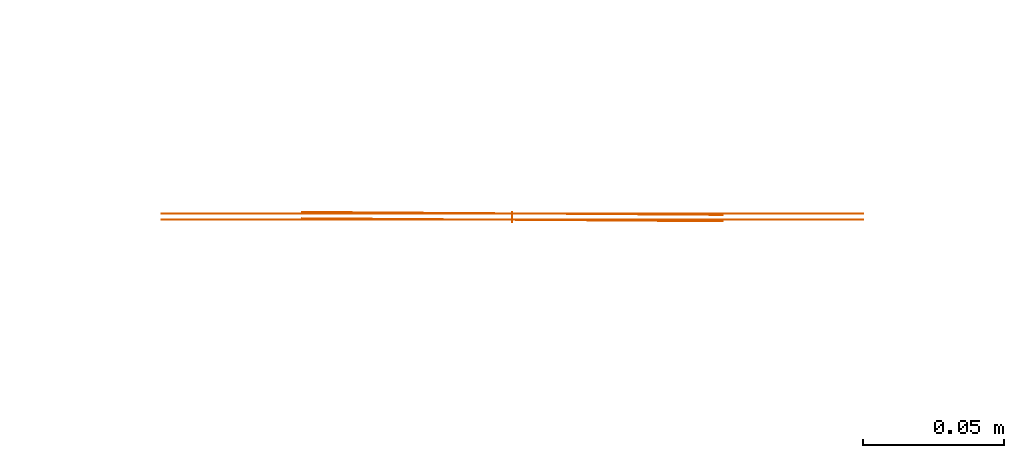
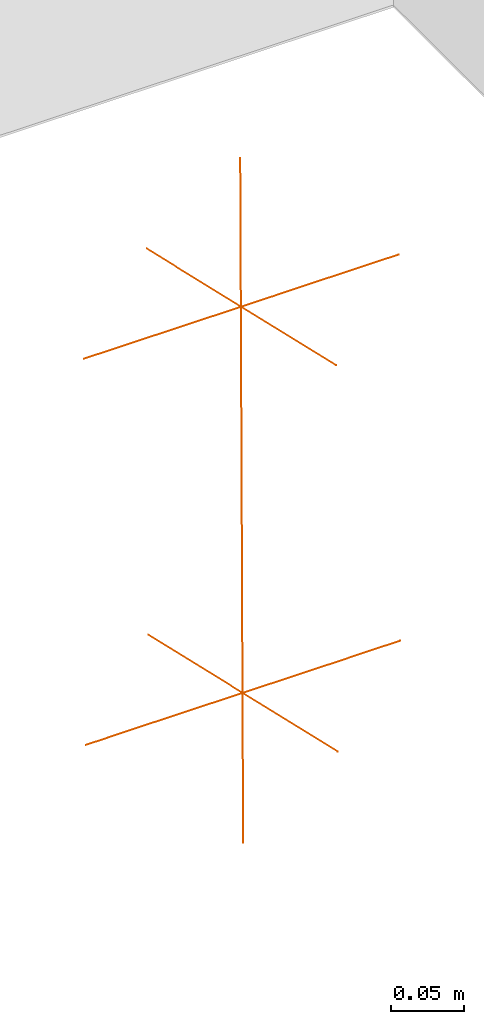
# One storey, part 2 of 3: 1 proxy, 1 element without a shape of its own.
"""IFC4 building model written with IfcOpenShell, lengths in metres."""

from ifc_helpers import new_model, entity, si_unit, converted_unit, derived_unit, frame, origin, origin_with_axes, place, context, subcontext, project, spatial, source, transform, mapped, element, aggregate, save


model = new_model("IFC4")

# Units and contexts
model_context = context("Model", 3, precision=1e-05, world=origin())
body_context = subcontext(model_context, "Body", "Model", "MODEL_VIEW")
ifc_project = project(units=[si_unit("LENGTHUNIT", "METRE"), si_unit("AREAUNIT", "SQUARE_METRE"), si_unit("VOLUMEUNIT", "CUBIC_METRE"), si_unit("MASSUNIT", "GRAM", prefix="KILO"), converted_unit("PLANEANGLEUNIT", "DEGREE", entity("IfcPlaneAngleMeasure", 0.0174532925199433), si_unit("PLANEANGLEUNIT", "RADIAN"), dimensions=[0, 0, 0, 0, 0, 0, 0]), derived_unit("THERMALTRANSMITTANCEUNIT", [(si_unit("POWERUNIT", "WATT"), 1), (si_unit("THERMODYNAMICTEMPERATUREUNIT", "KELVIN"), -1), (si_unit("LENGTHUNIT", "METRE"), -2)]), derived_unit("VOLUMETRICFLOWRATEUNIT", [(si_unit("LENGTHUNIT", "METRE"), 3), (converted_unit("TIMEUNIT", "hour", entity("IfcTimeMeasure", 3600.0), si_unit("TIMEUNIT", "SECOND"), dimensions=[0, 0, 1, 0, 0, 0, 0]), -1), (si_unit("LENGTHUNIT", "METRE"), -1)])], contexts=[model_context])

# Site, building, storey
site_placement = place(None, origin())
site = spatial("IfcSite", under=ifc_project, at=site_placement, Name="Liegenschaft", CompositionType="ELEMENT")
building_placement = place(site_placement, origin())
building = spatial("IfcBuilding", under=site, at=building_placement, Name="Gebäude", CompositionType="ELEMENT")
storey_placement = place(building_placement, origin())
storey = spatial("IfcBuildingStorey", under=building, at=storey_placement, Name="Geschoss 02", CompositionType="ELEMENT", Elevation=0.0)

# Assembly, proxy
assembly_placement = place(storey_placement, origin())
assembly = element("IfcElementAssembly", 1, at=assembly_placement, inside=storey, Name="SpatialDim_Group", PredefinedType="NOTDEFINED")
shared_shape = source(origin_with_axes(), body_context, "Axis", "Curve3D", [
    entity("IfcPolyline", [entity("IfcCartesianPoint", [0.05, 0.05, 0.0]), entity("IfcCartesianPoint", [0.2, 0.2, 0.0])]),
    entity("IfcPolyline", [entity("IfcCartesianPoint", [0.125, 0.0, 0.0]), entity("IfcCartesianPoint", [0.125, 0.25, 0.0])]),
    entity("IfcPolyline", [entity("IfcCartesianPoint", [0.372307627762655, 0.05, 0.0]), entity("IfcCartesianPoint", [0.522307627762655, 0.2, 0.0])]),
    entity("IfcPolyline", [entity("IfcCartesianPoint", [0.447307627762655, 0.0, 0.0]), entity("IfcCartesianPoint", [0.447307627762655, 0.25, 0.0])]),
    entity("IfcPolyline", [entity("IfcCartesianPoint", [0.0, 0.125, 0.0]), entity("IfcCartesianPoint", [0.572307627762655, 0.125, 0.0])]),
])
proxy_placement = place(assembly_placement, frame((130.247507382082, -1.60758676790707, 0.447296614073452), z_axis=(1.22461664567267e-16, -0.99997537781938, 0.00701738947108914), x_axis=(8.59382355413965e-19, -0.00701738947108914, -0.99997537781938)))
proxy = element("IfcBuildingElementProxy", 2, at=proxy_placement, Name="macro", context=body_context, shape_type="MappedRepresentation", body=[
    mapped(shared_shape, transform((0.0, 0.0, 0.0), x_axis=(1.0, 0.0, 0.0), y_axis=(0.0, 1.0, 0.0), z_axis=(0.0, 0.0, 1.0), scale=1.0)),
])
aggregate(assembly, [proxy])

save(model, "model.ifc")
